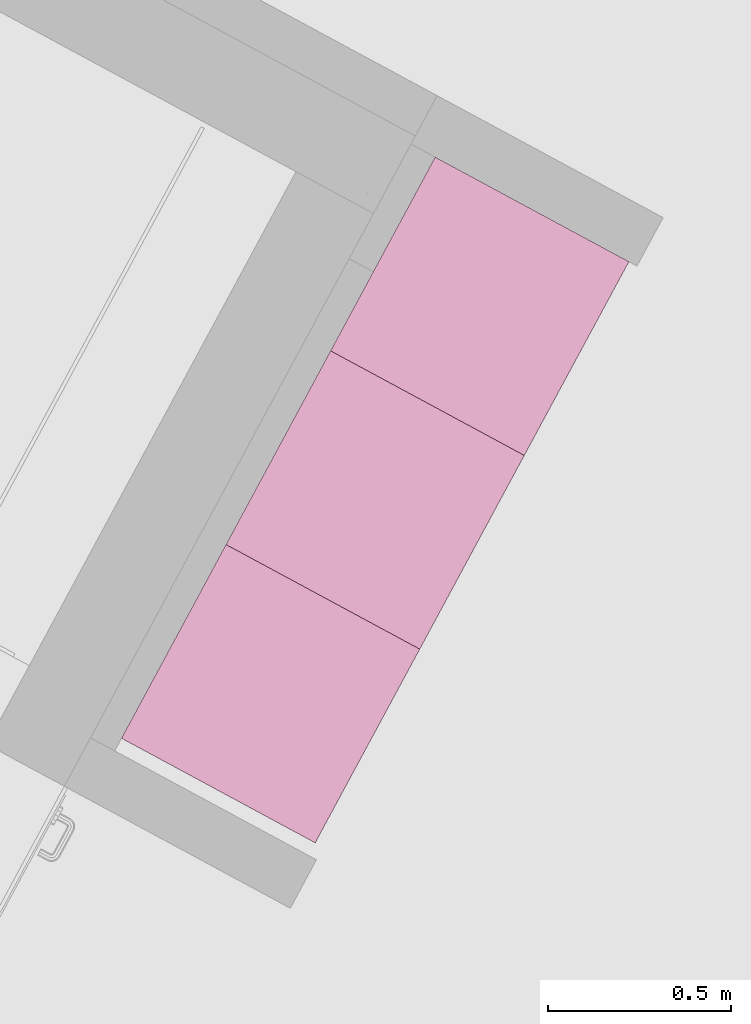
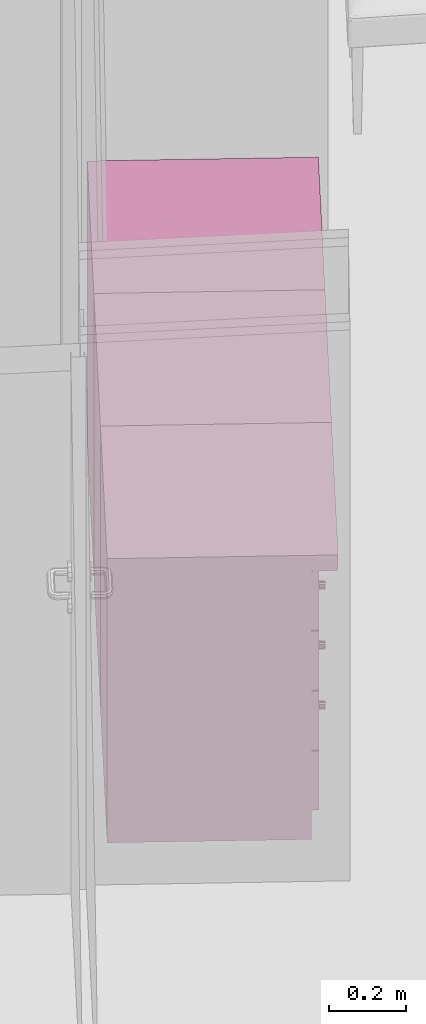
# One storey, part 31 of 52: 3 furnishings.
"""IFC2X3 building model written with IfcOpenShell, lengths in metres."""

from ifc_helpers import new_model, entity, si_unit, converted_unit, derived_unit, money_unit, direction, frame, origin_with_axes, place, context, subcontext, project, spatial, faceted_brep, source, transform, mapped, type_object, element, save


model = new_model("IFC2X3")

# Units and contexts
model_context = context("Model", 3, precision=1e-05, world=origin_with_axes(), true_north=direction((0.0, 1.0)))
body_context = subcontext(model_context, "Body", "Model", "MODEL_VIEW")
ifc_project = project(units=[si_unit("LENGTHUNIT", "METRE"), si_unit("AREAUNIT", "SQUARE_METRE"), si_unit("VOLUMEUNIT", "CUBIC_METRE"), converted_unit("PLANEANGLEUNIT", "DEGREE", entity("IfcPlaneAngleMeasure", 0.0174532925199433), si_unit("PLANEANGLEUNIT", "RADIAN"), dimensions=[0, 0, 0, 0, 0, 0, 0]), money_unit("EUR"), converted_unit("TIMEUNIT", "Year", entity("IfcTimeMeasure", 31556926.0), si_unit("TIMEUNIT", "SECOND"), dimensions=[0, 0, 1, 0, 0, 0, 0]), si_unit("MASSUNIT", "GRAM", prefix="KILO"), si_unit("THERMODYNAMICTEMPERATUREUNIT", "DEGREE_CELSIUS"), si_unit("LUMINOUSINTENSITYUNIT", "LUMEN"), si_unit("ENERGYUNIT", "JOULE", prefix="MEGA"), derived_unit("THERMALCONDUCTANCEUNIT", [(si_unit("POWERUNIT", "WATT"), 1), (si_unit("LENGTHUNIT", "METRE"), -1), (si_unit("THERMODYNAMICTEMPERATUREUNIT", "KELVIN"), -1)]), derived_unit("SPECIFICHEATCAPACITYUNIT", [(si_unit("ENERGYUNIT", "JOULE"), 1), (si_unit("MASSUNIT", "GRAM", prefix="KILO"), -1), (si_unit("THERMODYNAMICTEMPERATUREUNIT", "KELVIN"), -1)]), derived_unit("MASSDENSITYUNIT", [(si_unit("MASSUNIT", "GRAM", prefix="KILO"), 1), (si_unit("VOLUMEUNIT", "CUBIC_METRE"), -1)])], contexts=[model_context])

# Site, building, storey
site_placement = place(None, frame((-3.949935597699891, 1.740105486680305, 0.0), z_axis=(0.0, 0.0, 1.0), x_axis=(0.8799804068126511, -0.475009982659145, 0.0)))
site = spatial("IfcSite", under=ifc_project, at=site_placement, Name="Gelände", CompositionType="ELEMENT")
building_placement = place(site_placement, origin_with_axes())
building = spatial("IfcBuilding", under=site, at=building_placement, Name="Gebäude", CompositionType="ELEMENT")
storey_placement = place(building_placement, origin_with_axes())
storey = spatial("IfcBuildingStorey", under=building, at=storey_placement, Name="Erdgeschoss", CompositionType="ELEMENT", Elevation=0.0)

# Furnishings
furnishing_element_type = type_object("IfcFurnishingElementType", Name="Unterschrank Mehrfach-Schublade 22")
shared_shape = source(origin_with_axes(), body_context, "Body", "Brep", [
    faceted_brep([(-0.001500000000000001, 0.07, 0.0915), (-0.001500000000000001, 0.05, 0.0915), (-0.5985, 0.05, 0.0915), (-0.5985, 0.07, 0.0915), (-0.001500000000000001, 0.07000000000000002, 0.2785), (-0.001500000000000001, 0.05000000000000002, 0.2785), (-0.5985, 0.05000000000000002, 0.2785), (-0.5985, 0.07000000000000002, 0.2785)], [[[0, 1, 2, 3]], [[4, 5, 1, 0]], [[1, 5, 6, 2]], [[3, 2, 6, 7]], [[0, 3, 7, 4]], [[7, 6, 5, 4]]]),
    faceted_brep([(-0.2954077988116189, 0.05, 0.2039134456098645), (-0.3, 0.05, 0.203), (-0.304592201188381, 0.05, 0.2039134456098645), (-0.3084852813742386, 0.05, 0.2065147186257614), (-0.3110865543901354, 0.05, 0.2104077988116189), (-0.312, 0.05, 0.215), (-0.3110865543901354, 0.05, 0.2195922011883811), (-0.3084852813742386, 0.05, 0.2234852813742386), (-0.304592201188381, 0.05, 0.2260865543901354), (-0.3, 0.05, 0.227), (-0.2954077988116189, 0.05, 0.2260865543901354), (-0.2915147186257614, 0.05, 0.2234852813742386), (-0.2889134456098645, 0.05, 0.2195922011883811), (-0.288, 0.05, 0.215), (-0.2889134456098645, 0.05, 0.2104077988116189), (-0.2915147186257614, 0.05, 0.2065147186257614), (-0.2954077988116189, 0.025, 0.2039134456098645), (-0.3, 0.025, 0.203), (-0.3045922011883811, 0.025, 0.2039134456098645), (-0.3084852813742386, 0.025, 0.2065147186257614), (-0.3110865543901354, 0.025, 0.2104077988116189), (-0.312, 0.025, 0.215), (-0.3110865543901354, 0.025, 0.2195922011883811), (-0.3084852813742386, 0.025, 0.2234852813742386), (-0.304592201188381, 0.025, 0.2260865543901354), (-0.3, 0.025, 0.227), (-0.2954077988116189, 0.025, 0.2260865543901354), (-0.2915147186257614, 0.025, 0.2234852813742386), (-0.2889134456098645, 0.025, 0.2195922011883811), (-0.288, 0.025, 0.215), (-0.2889134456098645, 0.025, 0.2104077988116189), (-0.2915147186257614, 0.025, 0.2065147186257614)], [[[0, 1, 2, 3, 4, 5, 6, 7, 8, 9, 10, 11, 12, 13, 14, 15]], [[0, 16, 17, 1]], [[1, 17, 18, 2]], [[2, 18, 19, 3]], [[3, 19, 20, 4]], [[4, 20, 21, 5]], [[5, 21, 22, 6]], [[6, 22, 23, 7]], [[7, 23, 24, 8]], [[8, 24, 25, 9]], [[9, 25, 26, 10]], [[10, 26, 27, 11]], [[11, 27, 28, 12]], [[12, 28, 29, 13]], [[13, 29, 30, 14]], [[14, 30, 31, 15]], [[15, 31, 16, 0]], [[16, 31, 30, 29, 28, 27, 26, 25, 24, 23, 22, 21, 20, 19, 18, 17]]]),
    faceted_brep([(-0.001500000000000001, 0.07, 0.2815), (-0.001500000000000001, 0.05, 0.2815), (-0.5985, 0.05, 0.2815), (-0.5985, 0.07, 0.2815), (-0.001500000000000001, 0.07000000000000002, 0.4685), (-0.001500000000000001, 0.05000000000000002, 0.4685), (-0.5985, 0.05000000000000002, 0.4685), (-0.5985, 0.07000000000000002, 0.4685)], [[[0, 1, 2, 3]], [[4, 5, 1, 0]], [[1, 5, 6, 2]], [[3, 2, 6, 7]], [[0, 3, 7, 4]], [[7, 6, 5, 4]]]),
    faceted_brep([(-0.2954077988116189, 0.05, 0.3939134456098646), (-0.3, 0.05, 0.393), (-0.304592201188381, 0.05, 0.3939134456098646), (-0.3084852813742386, 0.05, 0.3965147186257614), (-0.3110865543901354, 0.05, 0.400407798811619), (-0.312, 0.05, 0.405), (-0.3110865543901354, 0.05, 0.4095922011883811), (-0.3084852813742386, 0.05, 0.4134852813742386), (-0.304592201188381, 0.05, 0.4160865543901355), (-0.3, 0.05, 0.417), (-0.2954077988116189, 0.05, 0.4160865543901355), (-0.2915147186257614, 0.05, 0.4134852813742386), (-0.2889134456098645, 0.05, 0.4095922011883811), (-0.288, 0.05, 0.405), (-0.2889134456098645, 0.05, 0.4004077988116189), (-0.2915147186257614, 0.05, 0.3965147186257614), (-0.2954077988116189, 0.025, 0.3939134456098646), (-0.3, 0.025, 0.393), (-0.3045922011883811, 0.025, 0.3939134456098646), (-0.3084852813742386, 0.025, 0.3965147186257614), (-0.3110865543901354, 0.025, 0.400407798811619), (-0.312, 0.025, 0.405), (-0.3110865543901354, 0.025, 0.4095922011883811), (-0.3084852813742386, 0.025, 0.4134852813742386), (-0.304592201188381, 0.025, 0.4160865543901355), (-0.3, 0.025, 0.417), (-0.2954077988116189, 0.025, 0.4160865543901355), (-0.2915147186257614, 0.025, 0.4134852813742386), (-0.2889134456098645, 0.025, 0.4095922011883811), (-0.288, 0.025, 0.405), (-0.2889134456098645, 0.025, 0.4004077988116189), (-0.2915147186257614, 0.025, 0.3965147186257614)], [[[0, 1, 2, 3, 4, 5, 6, 7, 8, 9, 10, 11, 12, 13, 14, 15]], [[0, 16, 17, 1]], [[1, 17, 18, 2]], [[2, 18, 19, 3]], [[3, 19, 20, 4]], [[4, 20, 21, 5]], [[5, 21, 22, 6]], [[6, 22, 23, 7]], [[7, 23, 24, 8]], [[8, 24, 25, 9]], [[9, 25, 26, 10]], [[10, 26, 27, 11]], [[11, 27, 28, 12]], [[12, 28, 29, 13]], [[13, 29, 30, 14]], [[14, 30, 31, 15]], [[15, 31, 16, 0]], [[16, 31, 30, 29, 28, 27, 26, 25, 24, 23, 22, 21, 20, 19, 18, 17]]]),
    faceted_brep([(-0.02, 0.07, 0.28), (-0.02, 0.07, 0.3), (-0.58, 0.07, 0.3), (-0.58, 0.07, 0.28), (-0.02, 0.58, 0.28), (-0.02, 0.58, 0.3), (-0.58, 0.58, 0.3), (-0.58, 0.58, 0.28)], [[[0, 1, 2, 3]], [[4, 5, 1, 0]], [[1, 5, 6, 2]], [[3, 2, 6, 7]], [[0, 3, 7, 4]], [[7, 6, 5, 4]]]),
    faceted_brep([(-0.001500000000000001, 0.07, 0.4715), (-0.001500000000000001, 0.05, 0.4715), (-0.5985, 0.05, 0.4715), (-0.5985, 0.07, 0.4715), (-0.001500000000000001, 0.07000000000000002, 0.6585), (-0.001500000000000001, 0.05000000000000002, 0.6585), (-0.5985, 0.05000000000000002, 0.6585), (-0.5985, 0.07000000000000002, 0.6585)], [[[0, 1, 2, 3]], [[4, 5, 1, 0]], [[1, 5, 6, 2]], [[3, 2, 6, 7]], [[0, 3, 7, 4]], [[7, 6, 5, 4]]]),
    faceted_brep([(-0.2954077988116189, 0.05, 0.5839134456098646), (-0.3, 0.05, 0.583), (-0.304592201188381, 0.05, 0.5839134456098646), (-0.3084852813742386, 0.05, 0.5865147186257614), (-0.3110865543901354, 0.05, 0.5904077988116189), (-0.312, 0.05, 0.595), (-0.3110865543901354, 0.05, 0.5995922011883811), (-0.3084852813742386, 0.05, 0.6034852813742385), (-0.304592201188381, 0.05, 0.6060865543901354), (-0.3, 0.05, 0.607), (-0.2954077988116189, 0.05, 0.6060865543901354), (-0.2915147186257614, 0.05, 0.6034852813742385), (-0.2889134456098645, 0.05, 0.5995922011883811), (-0.288, 0.05, 0.595), (-0.2889134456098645, 0.05, 0.5904077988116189), (-0.2915147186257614, 0.05, 0.5865147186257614), (-0.2954077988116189, 0.025, 0.5839134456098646), (-0.3, 0.025, 0.583), (-0.3045922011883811, 0.025, 0.5839134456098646), (-0.3084852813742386, 0.025, 0.5865147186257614), (-0.3110865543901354, 0.025, 0.5904077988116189), (-0.312, 0.025, 0.595), (-0.3110865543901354, 0.025, 0.5995922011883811), (-0.3084852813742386, 0.025, 0.6034852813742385), (-0.304592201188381, 0.025, 0.6060865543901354), (-0.3, 0.025, 0.607), (-0.2954077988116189, 0.025, 0.6060865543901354), (-0.2915147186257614, 0.025, 0.6034852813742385), (-0.2889134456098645, 0.025, 0.5995922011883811), (-0.288, 0.025, 0.595), (-0.2889134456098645, 0.025, 0.5904077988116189), (-0.2915147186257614, 0.025, 0.5865147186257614)], [[[0, 1, 2, 3, 4, 5, 6, 7, 8, 9, 10, 11, 12, 13, 14, 15]], [[0, 16, 17, 1]], [[1, 17, 18, 2]], [[2, 18, 19, 3]], [[3, 19, 20, 4]], [[4, 20, 21, 5]], [[5, 21, 22, 6]], [[6, 22, 23, 7]], [[7, 23, 24, 8]], [[8, 24, 25, 9]], [[9, 25, 26, 10]], [[10, 26, 27, 11]], [[11, 27, 28, 12]], [[12, 28, 29, 13]], [[13, 29, 30, 14]], [[14, 30, 31, 15]], [[15, 31, 16, 0]], [[16, 31, 30, 29, 28, 27, 26, 25, 24, 23, 22, 21, 20, 19, 18, 17]]]),
    faceted_brep([(-0.02, 0.07, 0.47), (-0.02, 0.07, 0.49), (-0.58, 0.07, 0.49), (-0.58, 0.07, 0.47), (-0.02, 0.58, 0.47), (-0.02, 0.58, 0.49), (-0.58, 0.58, 0.49), (-0.58, 0.58, 0.47)], [[[0, 1, 2, 3]], [[4, 5, 1, 0]], [[1, 5, 6, 2]], [[3, 2, 6, 7]], [[0, 3, 7, 4]], [[7, 6, 5, 4]]]),
    faceted_brep([(-0.001500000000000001, 0.07, 0.6615), (-0.001500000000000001, 0.05, 0.6615), (-0.5985, 0.05, 0.6615), (-0.5985, 0.07, 0.6615), (-0.001500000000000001, 0.07000000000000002, 0.8485), (-0.001500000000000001, 0.05000000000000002, 0.8485), (-0.5985, 0.05000000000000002, 0.8485), (-0.5985, 0.07000000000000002, 0.8485)], [[[0, 1, 2, 3]], [[4, 5, 1, 0]], [[1, 5, 6, 2]], [[3, 2, 6, 7]], [[0, 3, 7, 4]], [[7, 6, 5, 4]]]),
    faceted_brep([(-0.2954077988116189, 0.05, 0.7739134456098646), (-0.3, 0.05, 0.773), (-0.304592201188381, 0.05, 0.7739134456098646), (-0.3084852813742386, 0.05, 0.7765147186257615), (-0.3110865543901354, 0.05, 0.7804077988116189), (-0.312, 0.05, 0.785), (-0.3110865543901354, 0.05, 0.7895922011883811), (-0.3084852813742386, 0.05, 0.7934852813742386), (-0.304592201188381, 0.05, 0.7960865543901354), (-0.3, 0.05, 0.797), (-0.2954077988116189, 0.05, 0.7960865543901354), (-0.2915147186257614, 0.05, 0.7934852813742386), (-0.2889134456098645, 0.05, 0.7895922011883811), (-0.288, 0.05, 0.785), (-0.2889134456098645, 0.05, 0.7804077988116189), (-0.2915147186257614, 0.05, 0.7765147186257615), (-0.2954077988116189, 0.025, 0.7739134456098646), (-0.3, 0.025, 0.773), (-0.3045922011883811, 0.025, 0.7739134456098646), (-0.3084852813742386, 0.025, 0.7765147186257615), (-0.3110865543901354, 0.025, 0.7804077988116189), (-0.312, 0.025, 0.785), (-0.3110865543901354, 0.025, 0.7895922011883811), (-0.3084852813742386, 0.025, 0.7934852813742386), (-0.304592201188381, 0.025, 0.7960865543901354), (-0.3, 0.025, 0.797), (-0.2954077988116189, 0.025, 0.7960865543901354), (-0.2915147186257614, 0.025, 0.7934852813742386), (-0.2889134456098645, 0.025, 0.7895922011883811), (-0.288, 0.025, 0.785), (-0.2889134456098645, 0.025, 0.7804077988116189), (-0.2915147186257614, 0.025, 0.7765147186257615)], [[[0, 1, 2, 3, 4, 5, 6, 7, 8, 9, 10, 11, 12, 13, 14, 15]], [[0, 16, 17, 1]], [[1, 17, 18, 2]], [[2, 18, 19, 3]], [[3, 19, 20, 4]], [[4, 20, 21, 5]], [[5, 21, 22, 6]], [[6, 22, 23, 7]], [[7, 23, 24, 8]], [[8, 24, 25, 9]], [[9, 25, 26, 10]], [[10, 26, 27, 11]], [[11, 27, 28, 12]], [[12, 28, 29, 13]], [[13, 29, 30, 14]], [[14, 30, 31, 15]], [[15, 31, 16, 0]], [[16, 31, 30, 29, 28, 27, 26, 25, 24, 23, 22, 21, 20, 19, 18, 17]]]),
    faceted_brep([(-0.02, 0.07, 0.66), (-0.02, 0.07, 0.68), (-0.58, 0.07, 0.68), (-0.58, 0.07, 0.66), (-0.02, 0.58, 0.66), (-0.02, 0.58, 0.68), (-0.58, 0.58, 0.68), (-0.58, 0.58, 0.66)], [[[0, 1, 2, 3]], [[4, 5, 1, 0]], [[1, 5, 6, 2]], [[3, 2, 6, 7]], [[0, 3, 7, 4]], [[7, 6, 5, 4]]]),
    faceted_brep([(0.0, 0.07, 0.0), (0.0, 0.07, 0.09), (-0.6, 0.07, 0.09), (-0.6, 0.07, 0.0), (0.0, 0.6, 0.0), (0.0, 0.6, 0.09), (-0.6, 0.6, 0.09), (-0.6, 0.6, 0.0)], [[[0, 1, 2, 3]], [[4, 5, 1, 0]], [[1, 5, 6, 2]], [[3, 2, 6, 7]], [[0, 3, 7, 4]], [[7, 6, 5, 4]]]),
    faceted_brep([(0.0, 0.07, 0.83), (0.0, 0.07, 0.85), (-0.02, 0.07, 0.85), (-0.02, 0.07, 0.83), (0.0, 0.6, 0.83), (0.0, 0.6, 0.85), (-0.02, 0.6, 0.85), (-0.58, 0.6, 0.85), (-0.6, 0.6, 0.85), (-0.6, 0.07, 0.85), (-0.58, 0.07, 0.85), (-0.58, 0.07, 0.83), (-0.6, 0.07, 0.83), (-0.6, 0.6, 0.83), (-0.58, 0.6, 0.83), (-0.02, 0.6, 0.83)], [[[0, 1, 2, 3]], [[4, 5, 1, 0]], [[1, 5, 6, 7, 8, 9, 10, 2]], [[3, 2, 10, 11]], [[0, 3, 11, 12, 13, 14, 15, 4]], [[15, 6, 5, 4]], [[14, 7, 6, 15]], [[13, 8, 7, 14]], [[12, 9, 8, 13]], [[11, 10, 9, 12]]]),
    faceted_brep([(0.0, 0.07, 0.09), (0.0, 0.07, 0.11), (-0.02, 0.07, 0.11), (-0.02, 0.07, 0.09), (0.0, 0.6, 0.09), (0.0, 0.6, 0.11), (-0.02, 0.6, 0.11), (-0.58, 0.6, 0.11), (-0.6, 0.6, 0.11), (-0.6, 0.07, 0.11), (-0.58, 0.07, 0.11), (-0.58, 0.07, 0.09), (-0.6, 0.07, 0.09), (-0.6, 0.6, 0.09), (-0.58, 0.6, 0.09), (-0.02, 0.6, 0.09)], [[[0, 1, 2, 3]], [[4, 5, 1, 0]], [[1, 5, 6, 7, 8, 9, 10, 2]], [[3, 2, 10, 11]], [[0, 3, 11, 12, 13, 14, 15, 4]], [[15, 6, 5, 4]], [[14, 7, 6, 15]], [[13, 8, 7, 14]], [[12, 9, 8, 13]], [[11, 10, 9, 12]]]),
    faceted_brep([(0.0, 0.07, 0.11), (0.0, 0.07, 0.83), (-0.02, 0.07, 0.83), (-0.02, 0.07, 0.11), (0.0, 0.6, 0.11), (0.0, 0.6, 0.83), (-0.6, 0.6, 0.83), (-0.6, 0.07, 0.83), (-0.58, 0.07, 0.83), (-0.58, 0.58, 0.83), (-0.02, 0.58, 0.83), (-0.02, 0.58, 0.11), (-0.58, 0.58, 0.11), (-0.58, 0.07, 0.11), (-0.6, 0.07, 0.11), (-0.6, 0.6, 0.11)], [[[0, 1, 2, 3]], [[4, 5, 1, 0]], [[1, 5, 6, 7, 8, 9, 10, 2]], [[3, 2, 10, 11]], [[0, 3, 11, 12, 13, 14, 15, 4]], [[15, 6, 5, 4]], [[14, 7, 6, 15]], [[13, 8, 7, 14]], [[12, 9, 8, 13]], [[11, 10, 9, 12]]]),
    faceted_brep([(0.0, 0.0, 0.85), (0.0, 0.0, 0.9), (-0.6, 0.0, 0.9), (-0.6, 0.0, 0.85), (0.0, 0.6, 0.85), (0.0, 0.6, 0.9), (-0.6, 0.6, 0.9), (-0.6, 0.6, 0.85)], [[[0, 1, 2, 3]], [[4, 5, 1, 0]], [[1, 5, 6, 2]], [[3, 2, 6, 7]], [[0, 3, 7, 4]], [[7, 6, 5, 4]]]),
])
for number, where, z_axis, x_axis, name in (
    (1, (18.08248824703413, 9.672851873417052, 0.0), (0.0, 0.0, 1.0), (0.0, 1.0, 0.0), "Objekt-0064"),
    (2, (18.08248824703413, 10.27285187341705, 0.0), (0.0, 0.0, 1.0), (0.0, 1.0, 0.0), "Objekt-0064"),
    (3, (18.08248824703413, 10.87285187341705, 0.0), (0.0, 0.0, 1.0), (0.0, 1.0, 0.0), "Objekt-0064"),
):
    element("IfcFurnishingElement", number, at=place(storey_placement, frame(where, z_axis=z_axis, x_axis=x_axis)), inside=storey, type_object=furnishing_element_type, Name=name, context=body_context, shape_type="MappedRepresentation", body=[
        mapped(shared_shape, transform((0.0, 0.0, 0.0))),
    ])

save(model, "model.ifc")
